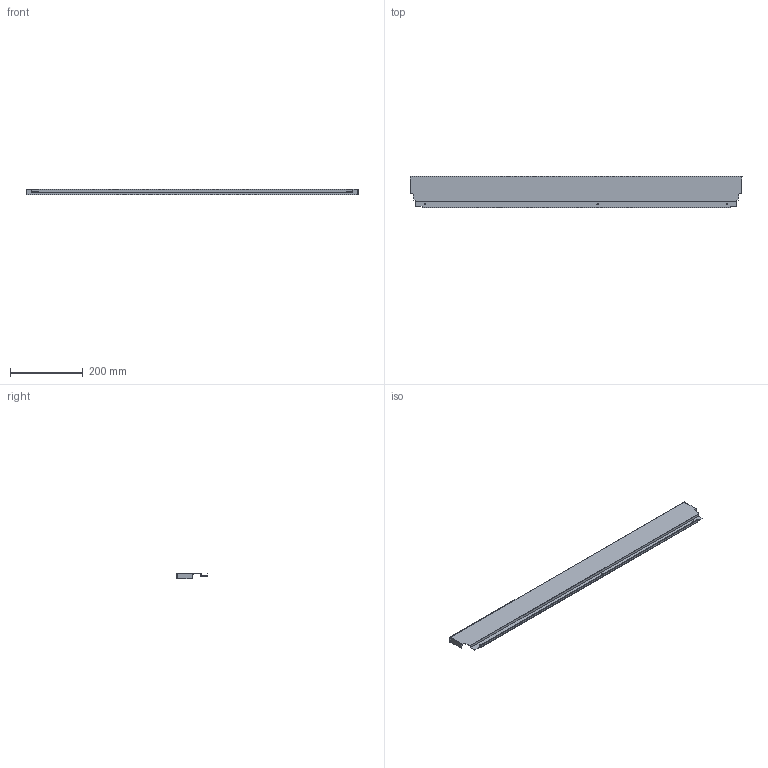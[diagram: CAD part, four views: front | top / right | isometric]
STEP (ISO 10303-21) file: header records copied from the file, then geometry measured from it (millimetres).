
FILE_DESCRIPTION (( 'STEP AP214' ), '1' );
FILE_NAME ('_DWD_XP Stahlrückwand_H86_KAB1000_S19.step', '2010-07-08T12:10:40', ( 'grass' ), ( '' ), 'SwSTEP 2.0', 'SolidWorks 2010', '' );
FILE_SCHEMA (( 'AUTOMOTIVE_DESIGN' ));
Length unit declared in the file: millimetre
Products named in the file (1): _DWD_XP Stahlrückwand_H86_KAB1000_S19
Bounding box: 913 x 85.79 x 16 mm (x, y, z)
Volume: 97964.1 mm3; surface area: 212497.1 mm2
Topology: 1 solids, 1 shells, 50 faces, 144 edges, 96 vertices
Faces by surface type: plane 44, cylinder 6
Entity records: 1666 total; most frequent: CARTESIAN_POINT 291, ORIENTED_EDGE 288, DIRECTION 258, EDGE_CURVE 144, LINE 132, VECTOR 132, VERTEX_POINT 96, AXIS2_PLACEMENT_3D 63
